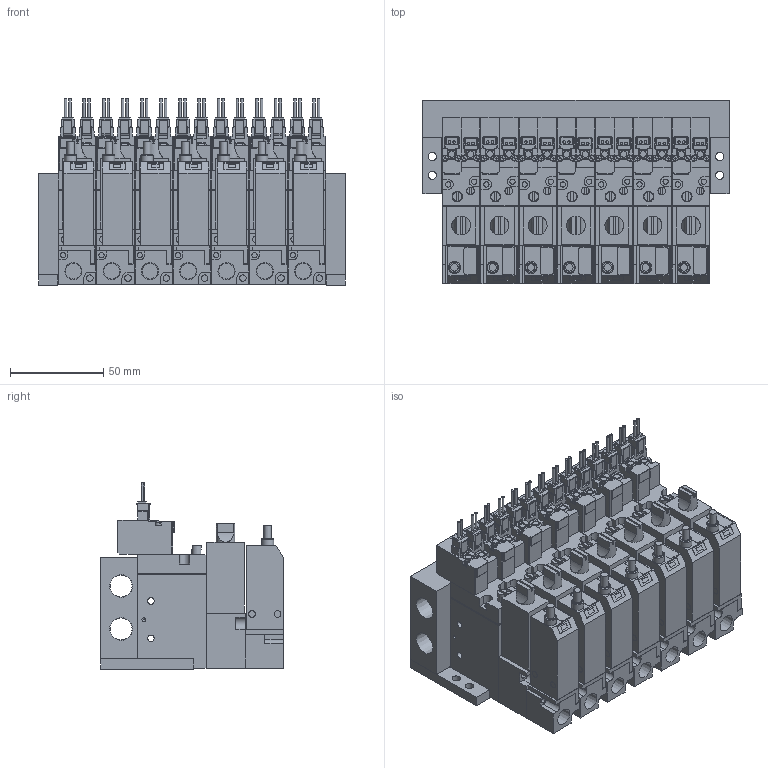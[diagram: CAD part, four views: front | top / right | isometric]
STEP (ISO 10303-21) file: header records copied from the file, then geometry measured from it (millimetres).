
FILE_DESCRIPTION(('STEP AP203'),'1');
FILE_NAME('BMPV32M2NAB25AL707.stp','2025-06-17T00:13:40',(' '),(' '),'Spatial InterOp 3D',' ',' ');
FILE_SCHEMA(('CONFIG_CONTROL_DESIGN'));
Length unit declared in the file: millimetre
Products named in the file (88): BMPV32M2NAB25AL707; Filter Assy; __; _____; MB BRACKET; BMPV32 MB07; Pressure sensor ABSL; ___ ___2; ___-2(Rc); ___; upper plate-A; ______; ____; VACUUM VALVE FUNCTION MPV42-A; UV280-4E
Assembly tree (87 placements, depth 2):
  BMPV32M2NAB25AL707
    Filter Assy
    __
    _____
    Filter Assy
    __
    _____
    Filter Assy
    __
    _____
    Filter Assy
    __
    _____
    Filter Assy
    __
    _____
    Filter Assy
    __
    _____
    MB BRACKET
    MB BRACKET
    BMPV32 MB07
    Filter Assy
    __
    _____
    Pressure sensor ABSL
    ___ ___2
    ___-2(Rc)
    Pressure sensor ABSL
    ___ ___2
    ___-2(Rc)
    Pressure sensor ABSL
    ___ ___2
    ___-2(Rc)
    Pressure sensor ABSL
    ___ ___2
    ___-2(Rc)
    Pressure sensor ABSL
    ___ ___2
    ___-2(Rc)
    Pressure sensor ABSL
    ___ ___2
    ___-2(Rc)
    Pressure sensor ABSL
    ___ ___2
    ___-2(Rc)
    ___
    upper plate-A
    ______
    ____
    VACUUM VALVE FUNCTION MPV42-A
    ___
    upper plate-A
    ______
    ____
    VACUUM VALVE FUNCTION MPV42-A
    ___
    upper plate-A
    ______
    ____
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Bounding box: 164 x 98 x 99.75 mm (x, y, z)
Volume: 837238.6 mm3; surface area: 275340.4 mm2
Topology: 87 solids, 87 shells, 2763 faces, 7177 edges, 4754 vertices
Faces by surface type: plane 2219, cylinder 487, cone 50, torus 7
Full cylindrical faces by diameter (mm): 1.4 x28, 1.8 x14, 2 x14, 2.5 x18, 2.8 x28, 3 x28, 3.5 x88, 4 x14, 4.2 x7, 4.5 x4, 5 x7, 5.5 x7, 6.5 x13, 8.522 x7, 11.776 x2
Entity records: 86470 total; most frequent: CARTESIAN_POINT 14778, DIRECTION 13608, ORIENTED_EDGE 13450, EDGE_CURVE 6725, LINE 5488, VECTOR 5488, VERTEX_POINT 4684, AXIS2_PLACEMENT_3D 4060
